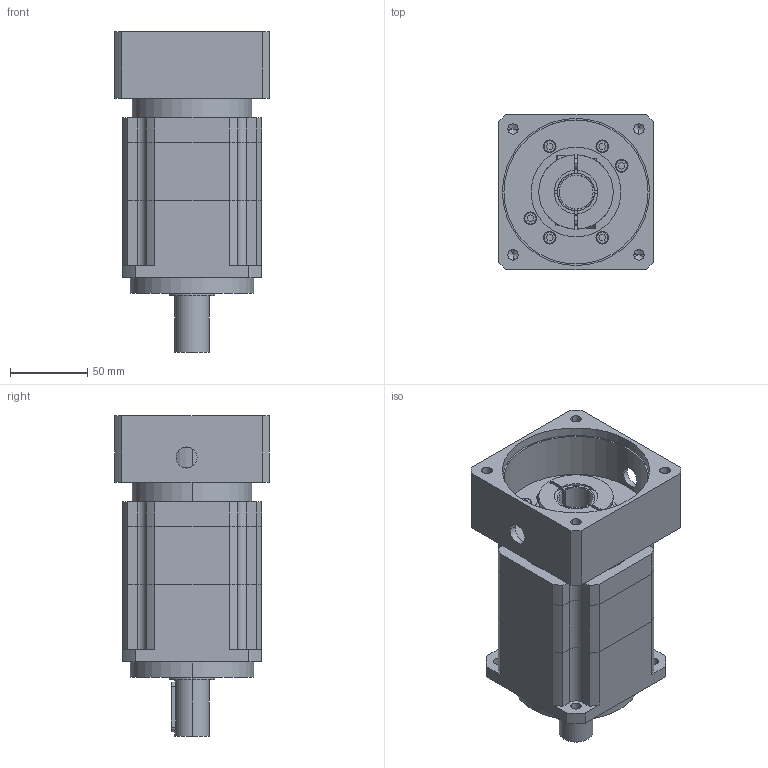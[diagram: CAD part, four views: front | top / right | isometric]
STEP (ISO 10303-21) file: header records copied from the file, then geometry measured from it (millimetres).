
FILE_DESCRIPTION (( 'STEP AP203' ), '1' );
FILE_NAME ('WAB090-L2-95-115-M6-22-60-±ß100.STEP', '2020-10-19T10:50:33', ( '' ), ( '' ), 'SwSTEP 2.0', 'SolidWorks 2016', '' );
FILE_SCHEMA (( 'CONFIG_CONTROL_DESIGN' ));
Length unit declared in the file: millimetre
Products named in the file (1): WAB090-L2-95-115-M6-22-60-晚100
Bounding box: 100 x 100 x 207 mm (x, y, z)
Volume: 1050594.9 mm3; surface area: 155705.6 mm2
Topology: 8 solids, 8 shells, 353 faces, 895 edges, 579 vertices
Faces by surface type: plane 180, cylinder 147, torus 16, cone 10
Entity records: 11108 total; most frequent: CARTESIAN_POINT 2261, DIRECTION 1903, ORIENTED_EDGE 1770, EDGE_CURVE 885, AXIS2_PLACEMENT_3D 691, VERTEX_POINT 579, VECTOR 521, LINE 521
